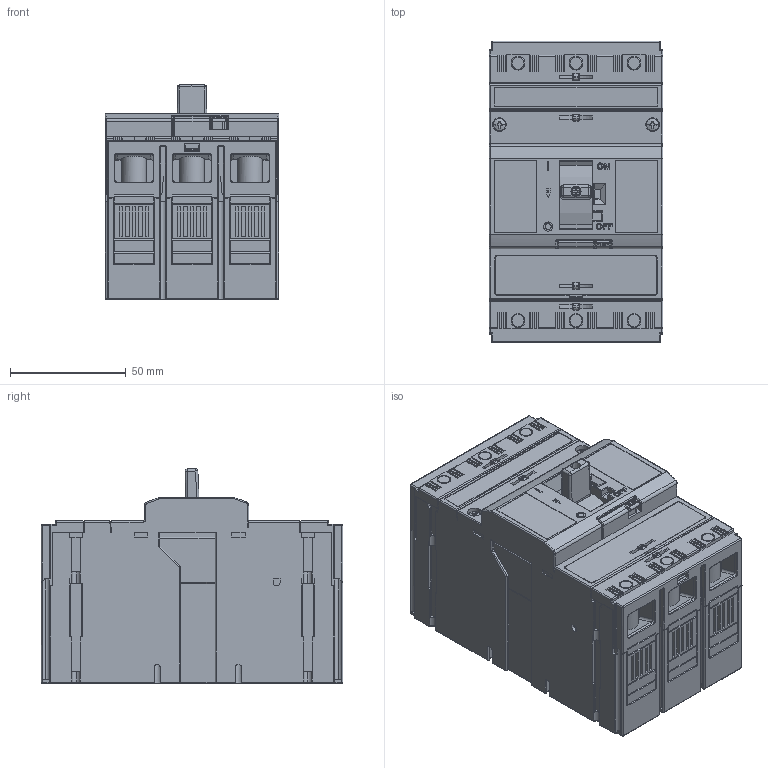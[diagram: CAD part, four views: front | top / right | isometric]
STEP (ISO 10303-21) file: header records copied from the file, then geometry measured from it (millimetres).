
FILE_DESCRIPTION (( 'STEP AP214' ), '1' );
FILE_NAME ('BC160NT305.step', '2013-05-07T06:33:06', ( '' ), ( '' ), 'SwSTEP 2.0', 'SolidWorks 2011', '' );
FILE_SCHEMA (( 'AUTOMOTIVE_DESIGN' ));
Length unit declared in the file: millimetre
Products named in the file (1): BC160NT305
Bounding box: 75 x 130 x 92.5 mm (x, y, z)
Volume: 623670.4 mm3; surface area: 142483 mm2
Topology: 9 solids, 10 shells, 4628 faces, 12663 edges, 8087 vertices
Faces by surface type: plane 2689, cylinder 1518, bspline 391, cone 30
Entity records: 208016 total; most frequent: CARTESIAN_POINT 42234, ORIENTED_EDGE 25238, DIRECTION 22387, EDGE_CURVE 12619, VECTOR 8781, LINE 8781, VERTEX_POINT 8087, AXIS2_PLACEMENT_3D 6803
